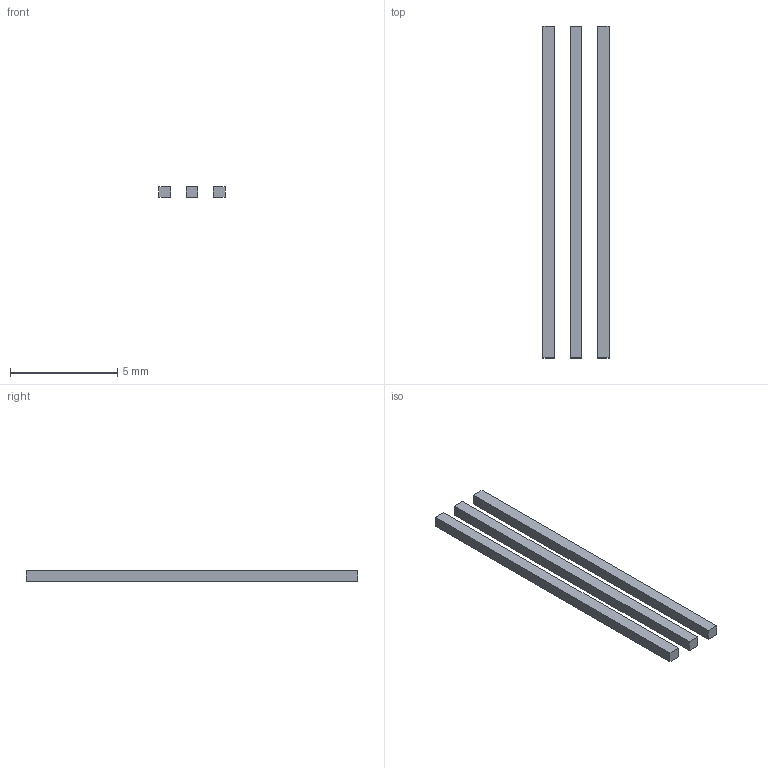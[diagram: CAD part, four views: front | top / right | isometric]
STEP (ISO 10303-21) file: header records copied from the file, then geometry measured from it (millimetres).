
FILE_DESCRIPTION(/* description */ (''),/* implementation_level */ '2;1');
FILE_NAME(/* name */ 'REF_lower_native_pins.step',/* time_stamp */ '2026-11-14T21:40:03-08:00',/* author */ (''),/* organization */ (''),/* preprocessor_version */ 'ST-DEVELOPER v20.2',/* originating_system */ 'Autodesk Translation Framework v15.17.0.0',/* authorisation */ '');
FILE_SCHEMA (('AUTOMOTIVE_DESIGN { 1 0 10303 214 3 1 1 }'));
Length unit declared in the file: millimetre
Products named in the file (1): 2026-11-14-21-40-03-147
Bounding box: 3.09 x 15.5 x 0.51 mm (x, y, z)
Volume: 13 mm3; surface area: 100.3 mm2
Topology: 3 solids, 3 shells, 18 faces, 36 edges, 24 vertices
Faces by surface type: plane 18
Entity records: 491 total; most frequent: CARTESIAN_POINT 79, DIRECTION 74, ORIENTED_EDGE 72, LINE 36, VECTOR 36, EDGE_CURVE 36, VERTEX_POINT 24, AXIS2_PLACEMENT_3D 19
